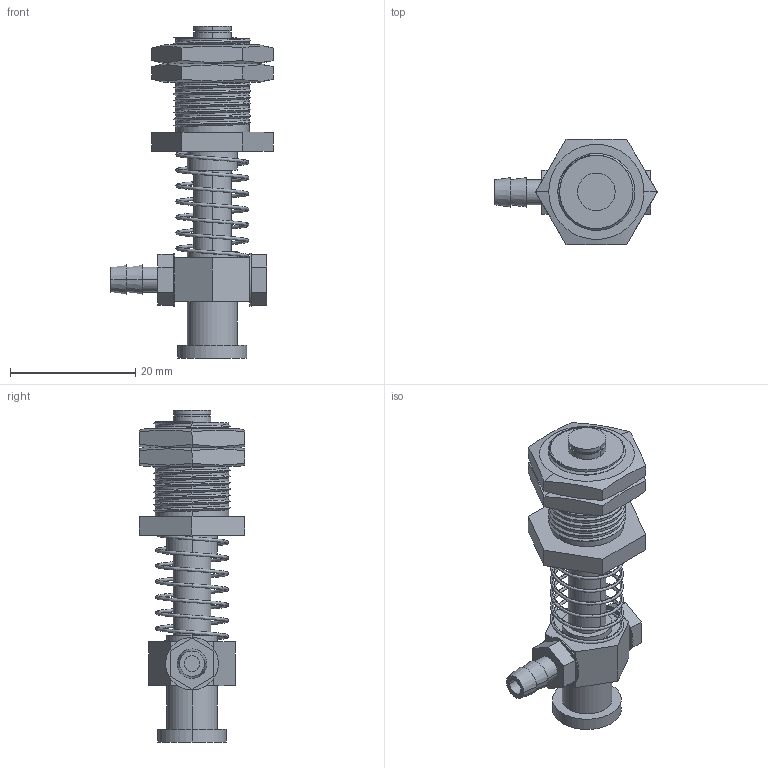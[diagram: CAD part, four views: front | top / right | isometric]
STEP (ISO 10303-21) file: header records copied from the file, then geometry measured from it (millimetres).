
FILE_DESCRIPTION (( 'STEP AP214' ), '1' );
FILE_NAME ('VFMT-10M12.STEP', '2019-11-16T01:43:09', ( '微软用户' ), ( '微软中国' ), 'SwSTEP 2.0', 'SolidWorks 2016', '' );
FILE_SCHEMA (( 'AUTOMOTIVE_DESIGN' ));
Length unit declared in the file: millimetre
Products named in the file (1): VFMT-10M12
Bounding box: 25.9 x 16.8 x 53 mm (x, y, z)
Volume: 5557.7 mm3; surface area: 5968.9 mm2
Topology: 10 solids, 10 shells, 198 faces, 485 edges, 317 vertices
Faces by surface type: cylinder 98, plane 77, cone 14, bspline 9
Entity records: 13876 total; most frequent: CARTESIAN_POINT 7229, ORIENTED_EDGE 966, DIRECTION 808, EDGE_CURVE 483, VERTEX_POINT 317, AXIS2_PLACEMENT_3D 296, EDGE_LOOP 226, LINE 216
